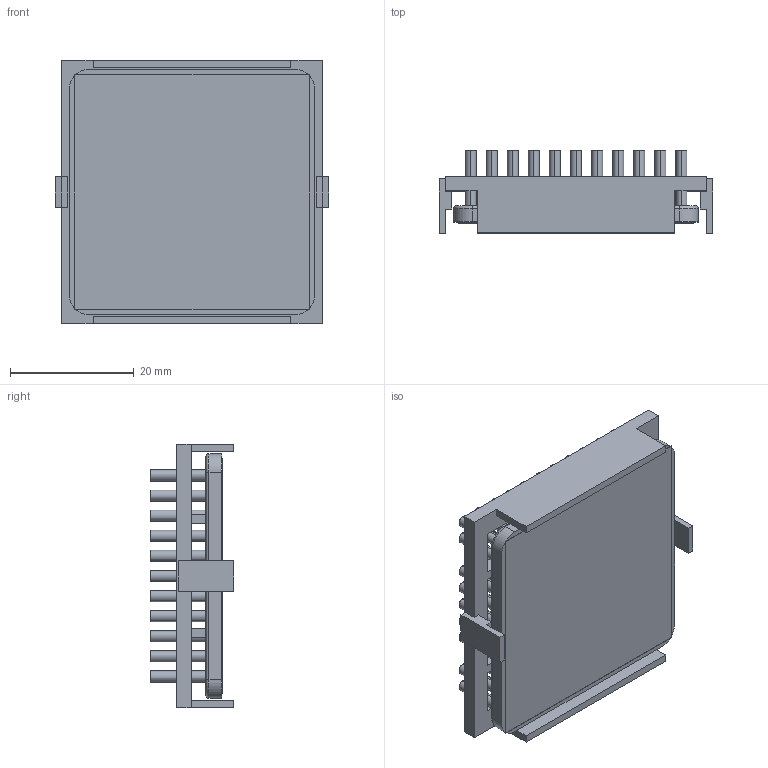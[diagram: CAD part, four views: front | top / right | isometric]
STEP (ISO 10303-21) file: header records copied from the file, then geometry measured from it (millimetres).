
FILE_DESCRIPTION (( 'STEP AP214' ), '1' );
FILE_NAME ('INM40002-12PCU-2.6BU.STEP', '2023-02-27T17:29:18', ( '' ), ( '' ), 'SwSTEP 2.0', 'SolidWorks 2020', '' );
FILE_SCHEMA (( 'AUTOMOTIVE_DESIGN' ));
Length unit declared in the file: inch
Products named in the file (1): INM40002-12PCU-2.6BU
Bounding box: 44.2 x 13.5 x 42.7 mm (x, y, z)
Volume: 8820.5 mm3; surface area: 15289.8 mm2
Topology: 3 solids, 3 shells, 421 faces, 898 edges, 596 vertices
Faces by surface type: cylinder 234, plane 183, torus 4
Entity records: 17099 total; most frequent: DIRECTION 2214, CARTESIAN_POINT 1916, ORIENTED_EDGE 1796, EDGE_CURVE 898, AXIS2_PLACEMENT_3D 894, VERTEX_POINT 596, EDGE_LOOP 536, CIRCLE 472
